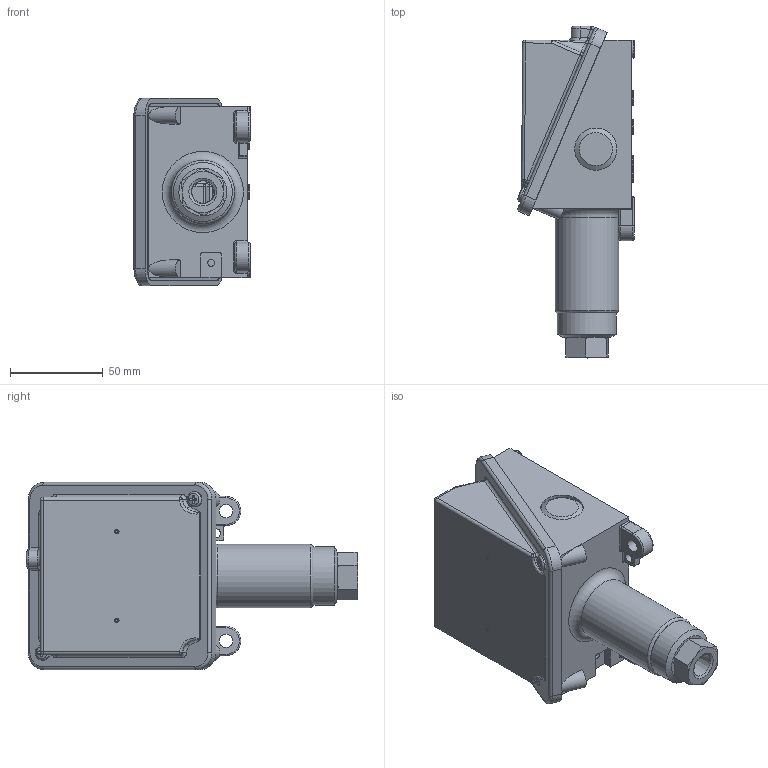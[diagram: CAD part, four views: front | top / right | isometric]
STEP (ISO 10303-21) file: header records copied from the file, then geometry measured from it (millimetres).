
FILE_DESCRIPTION (( 'STEP AP214' ), '1' );
FILE_NAME ('H100-270, 274, 358, 361, 376, 680_V2.STEP', '2025-02-28T13:48:56', ( '' ), ( '' ), 'SwSTEP 2.0', 'SolidWorks 2023', '' );
FILE_SCHEMA (( 'AUTOMOTIVE_DESIGN' ));
Length unit declared in the file: inch
Products named in the file (1): H100-270, 274, 358, 361, 376, 680_V2
Bounding box: 62.62 x 178.67 x 100.84 mm (x, y, z)
Surface area: 56419.6 mm2 (no closed solid volume)
Topology: 0 solids, 7 shells, 251 faces, 629 edges, 383 vertices
Faces by surface type: cylinder 87, plane 84, torus 42, cone 14, bspline 14, sphere 10
Full cylindrical faces by diameter (mm): 1.321 x2, 3.797 x1, 4.763 x1, 7.112 x2, 7.937 x2, 7.938 x2, 8.179 x2, 9.525 x2, 22.733 x2, 31.75 x1, 34.131 x1
Entity records: 7803 total; most frequent: CARTESIAN_POINT 2101, DIRECTION 1240, ORIENTED_EDGE 1070, EDGE_CURVE 580, AXIS2_PLACEMENT_3D 505, VERTEX_POINT 378, EDGE_LOOP 319, FACE_OUTER_BOUND 285
